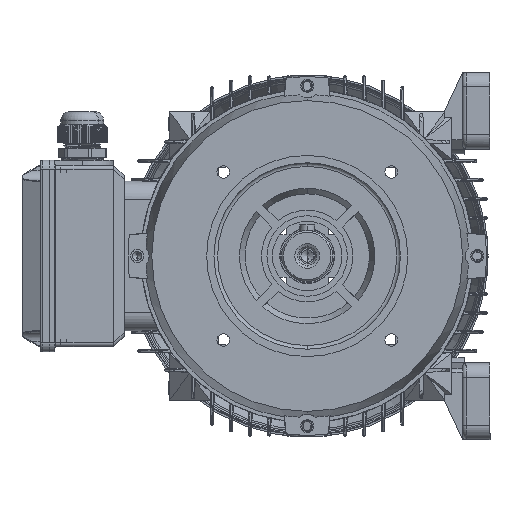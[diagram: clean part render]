
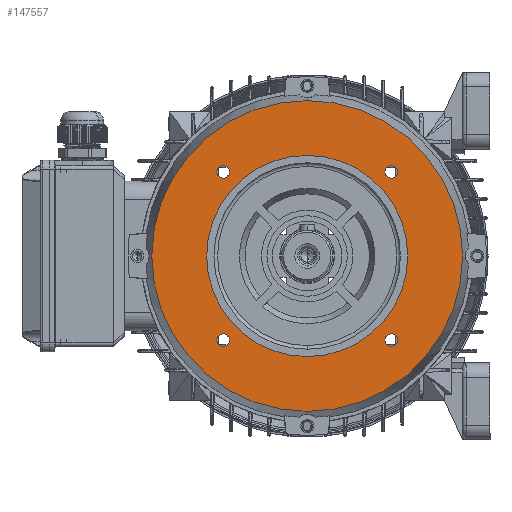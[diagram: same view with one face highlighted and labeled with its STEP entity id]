
A CAD part, left-side view. The second image highlights one B-rep face of the part: STEP entity #147557.
In plain terms, the highlighted planar face has unit normal (-1, 0, 0).
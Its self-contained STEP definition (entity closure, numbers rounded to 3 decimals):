
#3048 = EDGE_LOOP ( 'NONE', ( #80001, #131057 ) ) ;
#4168 = CIRCLE ( 'NONE', #36298, 3.4 ) ;
#5308 = ORIENTED_EDGE ( 'NONE', *, *, #58891, .T. ) ;
#5631 = FACE_BOUND ( 'NONE', #71878, .T. ) ;
#6478 = CARTESIAN_POINT ( 'NONE',  ( -15., 45.962, 42.562 ) ) ;
#8398 = CARTESIAN_POINT ( 'NONE',  ( -15., 0., 0. ) ) ;
#9694 = FACE_BOUND ( 'NONE', #108158, .T. ) ;
#10067 = CARTESIAN_POINT ( 'NONE',  ( -15., 45.962, 45.962 ) ) ;
#11730 = DIRECTION ( 'NONE',  ( 0., 0., -1. ) ) ;
#13025 = DIRECTION ( 'NONE',  ( 0., 0., -1. ) ) ;
#13132 = EDGE_CURVE ( 'NONE', #125324, #56256, #4168, .T. ) ;
#13720 = CARTESIAN_POINT ( 'NONE',  ( -15., 0., -85. ) ) ;
#13729 = FACE_BOUND ( 'NONE', #33775, .T. ) ;
#14545 = VERTEX_POINT ( 'NONE', #149338 ) ;
#15278 = DIRECTION ( 'NONE',  ( -1., 0., 0. ) ) ;
#15310 = AXIS2_PLACEMENT_3D ( 'NONE', #146652, #50881, #34941 ) ;
#15369 = AXIS2_PLACEMENT_3D ( 'NONE', #20410, #64470, #48520 ) ;
#17144 = AXIS2_PLACEMENT_3D ( 'NONE', #59517, #27626, #11730 ) ;
#20410 = CARTESIAN_POINT ( 'NONE',  ( -15., -45.962, -45.962 ) ) ;
#21727 = FACE_OUTER_BOUND ( 'NONE', #129664, .T. ) ;
#26767 = PLANE ( 'NONE',  #149357 ) ;
#27247 = CIRCLE ( 'NONE', #153861, 3.4 ) ;
#27296 = ORIENTED_EDGE ( 'NONE', *, *, #100497, .T. ) ;
#27626 = DIRECTION ( 'NONE',  ( 1., 0., 0. ) ) ;
#28890 = DIRECTION ( 'NONE',  ( 1., 0., 0. ) ) ;
#29729 = FACE_BOUND ( 'NONE', #50222, .T. ) ;
#30303 = ORIENTED_EDGE ( 'NONE', *, *, #88549, .F. ) ;
#31193 = CARTESIAN_POINT ( 'NONE',  ( -15., 0., 0. ) ) ;
#33693 = AXIS2_PLACEMENT_3D ( 'NONE', #8398, #148216, #132242 ) ;
#33775 = EDGE_LOOP ( 'NONE', ( #30303, #38066 ) ) ;
#34941 = DIRECTION ( 'NONE',  ( 0., 0., -1. ) ) ;
#36225 = VERTEX_POINT ( 'NONE', #120492 ) ;
#36298 = AXIS2_PLACEMENT_3D ( 'NONE', #44862, #28890, #13025 ) ;
#38066 = ORIENTED_EDGE ( 'NONE', *, *, #54886, .F. ) ;
#38734 = DIRECTION ( 'NONE',  ( 0., 0., -1. ) ) ;
#40975 = CIRCLE ( 'NONE', #15369, 3.4 ) ;
#44862 = CARTESIAN_POINT ( 'NONE',  ( -15., 45.962, -45.962 ) ) ;
#45629 = VERTEX_POINT ( 'NONE', #6478 ) ;
#47751 = CIRCLE ( 'NONE', #79769, 3.4 ) ;
#47860 = AXIS2_PLACEMENT_3D ( 'NONE', #150327, #134362, #118446 ) ;
#48520 = DIRECTION ( 'NONE',  ( 0., 0., -1. ) ) ;
#50222 = EDGE_LOOP ( 'NONE', ( #77247, #133957 ) ) ;
#50789 = CARTESIAN_POINT ( 'NONE',  ( -15., 0., 55. ) ) ;
#50881 = DIRECTION ( 'NONE',  ( 1., 0., 0. ) ) ;
#51202 = CARTESIAN_POINT ( 'NONE',  ( -15., -45.962, -42.562 ) ) ;
#52883 = VERTEX_POINT ( 'NONE', #129569 ) ;
#54674 = DIRECTION ( 'NONE',  ( 1., 0., 0. ) ) ;
#54886 = EDGE_CURVE ( 'NONE', #52883, #131509, #103300, .T. ) ;
#55649 = CARTESIAN_POINT ( 'NONE',  ( -15., 0., 0. ) ) ;
#56143 = CARTESIAN_POINT ( 'NONE',  ( -15., 0., 0. ) ) ;
#56256 = VERTEX_POINT ( 'NONE', #105751 ) ;
#58891 = EDGE_CURVE ( 'NONE', #148664, #36225, #152896, .T. ) ;
#59517 = CARTESIAN_POINT ( 'NONE',  ( -15., -45.962, -45.962 ) ) ;
#60258 = VERTEX_POINT ( 'NONE', #86992 ) ;
#64044 = ORIENTED_EDGE ( 'NONE', *, *, #142629, .T. ) ;
#64116 = ORIENTED_EDGE ( 'NONE', *, *, #136196, .T. ) ;
#64470 = DIRECTION ( 'NONE',  ( 1., 0., 0. ) ) ;
#65179 = CIRCLE ( 'NONE', #33693, 85. ) ;
#67418 = DIRECTION ( 'NONE',  ( 0., 0., -1. ) ) ;
#70674 = CARTESIAN_POINT ( 'NONE',  ( -15., 45.962, 45.962 ) ) ;
#71209 = CIRCLE ( 'NONE', #102829, 55. ) ;
#71878 = EDGE_LOOP ( 'NONE', ( #64116, #143227 ) ) ;
#76004 = EDGE_CURVE ( 'NONE', #109341, #136395, #40975, .T. ) ;
#77247 = ORIENTED_EDGE ( 'NONE', *, *, #13132, .T. ) ;
#79769 = AXIS2_PLACEMENT_3D ( 'NONE', #70674, #54674, #38734 ) ;
#80001 = ORIENTED_EDGE ( 'NONE', *, *, #94796, .T. ) ;
#82376 = CARTESIAN_POINT ( 'NONE',  ( -15., -45.962, -49.362 ) ) ;
#83417 = DIRECTION ( 'NONE',  ( 1., 0., 0. ) ) ;
#86887 = DIRECTION ( 'NONE',  ( 0., 0., -1. ) ) ;
#86992 = CARTESIAN_POINT ( 'NONE',  ( -15., 45.962, 49.362 ) ) ;
#88051 = CARTESIAN_POINT ( 'NONE',  ( -15., 45.962, -49.362 ) ) ;
#88549 = EDGE_CURVE ( 'NONE', #131509, #52883, #71209, .T. ) ;
#94796 = EDGE_CURVE ( 'NONE', #45629, #60258, #146695, .T. ) ;
#97748 = EDGE_CURVE ( 'NONE', #102551, #14545, #147845, .T. ) ;
#97845 = AXIS2_PLACEMENT_3D ( 'NONE', #10067, #149868, #133911 ) ;
#99320 = CARTESIAN_POINT ( 'NONE',  ( -15., -45.962, 45.962 ) ) ;
#100497 = EDGE_CURVE ( 'NONE', #36225, #148664, #65179, .T. ) ;
#102551 = VERTEX_POINT ( 'NONE', #128800 ) ;
#102802 = DIRECTION ( 'NONE',  ( 1., 0., 0. ) ) ;
#102829 = AXIS2_PLACEMENT_3D ( 'NONE', #55649, #147665, #131689 ) ;
#103300 = CIRCLE ( 'NONE', #133974, 55. ) ;
#105751 = CARTESIAN_POINT ( 'NONE',  ( -15., 45.962, -42.562 ) ) ;
#108158 = EDGE_LOOP ( 'NONE', ( #64044, #111478 ) ) ;
#109341 = VERTEX_POINT ( 'NONE', #51202 ) ;
#111388 = AXIS2_PLACEMENT_3D ( 'NONE', #56143, #148146, #132177 ) ;
#111478 = ORIENTED_EDGE ( 'NONE', *, *, #76004, .T. ) ;
#118446 = DIRECTION ( 'NONE',  ( 0., 0., -1. ) ) ;
#118801 = CARTESIAN_POINT ( 'NONE',  ( -15., 55., 0. ) ) ;
#120492 = CARTESIAN_POINT ( 'NONE',  ( -15., 0., 85. ) ) ;
#120680 = EDGE_CURVE ( 'NONE', #56256, #125324, #150584, .T. ) ;
#125324 = VERTEX_POINT ( 'NONE', #88051 ) ;
#128800 = CARTESIAN_POINT ( 'NONE',  ( -15., -45.962, 49.362 ) ) ;
#128993 = EDGE_CURVE ( 'NONE', #60258, #45629, #47751, .T. ) ;
#129569 = CARTESIAN_POINT ( 'NONE',  ( -15., 0., -55. ) ) ;
#129664 = EDGE_LOOP ( 'NONE', ( #27296, #5308 ) ) ;
#131057 = ORIENTED_EDGE ( 'NONE', *, *, #128993, .T. ) ;
#131509 = VERTEX_POINT ( 'NONE', #50789 ) ;
#131689 = DIRECTION ( 'NONE',  ( 0., 0., 1. ) ) ;
#132177 = DIRECTION ( 'NONE',  ( 0., 0., 1. ) ) ;
#132242 = DIRECTION ( 'NONE',  ( 0., 0., 1. ) ) ;
#133911 = DIRECTION ( 'NONE',  ( 0., 0., -1. ) ) ;
#133957 = ORIENTED_EDGE ( 'NONE', *, *, #120680, .T. ) ;
#133974 = AXIS2_PLACEMENT_3D ( 'NONE', #31193, #15278, #155114 ) ;
#134362 = DIRECTION ( 'NONE',  ( 1., 0., 0. ) ) ;
#136196 = EDGE_CURVE ( 'NONE', #14545, #102551, #27247, .T. ) ;
#136395 = VERTEX_POINT ( 'NONE', #82376 ) ;
#137295 = FACE_BOUND ( 'NONE', #3048, .T. ) ;
#142629 = EDGE_CURVE ( 'NONE', #136395, #109341, #151162, .T. ) ;
#143227 = ORIENTED_EDGE ( 'NONE', *, *, #97748, .T. ) ;
#146652 = CARTESIAN_POINT ( 'NONE',  ( -15., -45.962, 45.962 ) ) ;
#146695 = CIRCLE ( 'NONE', #97845, 3.4 ) ;
#147557 = ADVANCED_FACE ( 'NONE', ( #137295, #5631, #9694, #13729, #21727, #29729 ), #26767, .F. ) ;
#147665 = DIRECTION ( 'NONE',  ( -1., 0., 0. ) ) ;
#147845 = CIRCLE ( 'NONE', #15310, 3.4 ) ;
#148146 = DIRECTION ( 'NONE',  ( -1., 0., 0. ) ) ;
#148216 = DIRECTION ( 'NONE',  ( -1., 0., 0. ) ) ;
#148664 = VERTEX_POINT ( 'NONE', #13720 ) ;
#149338 = CARTESIAN_POINT ( 'NONE',  ( -15., -45.962, 42.562 ) ) ;
#149357 = AXIS2_PLACEMENT_3D ( 'NONE', #118801, #102802, #86887 ) ;
#149868 = DIRECTION ( 'NONE',  ( 1., 0., 0. ) ) ;
#150327 = CARTESIAN_POINT ( 'NONE',  ( -15., 45.962, -45.962 ) ) ;
#150584 = CIRCLE ( 'NONE', #47860, 3.4 ) ;
#151162 = CIRCLE ( 'NONE', #17144, 3.4 ) ;
#152896 = CIRCLE ( 'NONE', #111388, 85. ) ;
#153861 = AXIS2_PLACEMENT_3D ( 'NONE', #99320, #83417, #67418 ) ;
#155114 = DIRECTION ( 'NONE',  ( 0., 0., 1. ) ) ;
